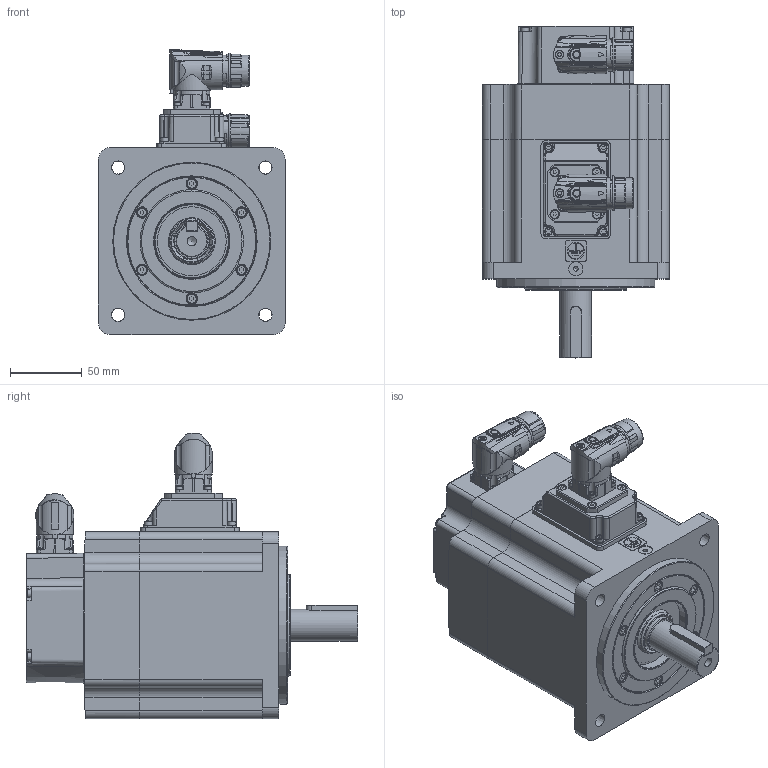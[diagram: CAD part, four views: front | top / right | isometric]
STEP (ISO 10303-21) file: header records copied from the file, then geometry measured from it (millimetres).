
FILE_DESCRIPTION( ( 'Unknown' ), '1' );
FILE_NAME( 'U:/05_Progetto TCE/010-TCE motor drawings/TCE130/Vuoti/TCE130 5A XX 3 A2 1 C2.stp', 'Unknown', ( 'Unknown' ), ( 'Unknown' ), 'PSStep 17.0.49', 'Unknown', ' ' );
FILE_SCHEMA( ( 'AUTOMOTIVE_DESIGN { 1 0 10303 214 1 1 1 1 }' ) );
Length unit declared in the file: millimetre
Products named in the file (13): 003103001510
Bounding box: 130.3 x 231 x 198.5 mm (x, y, z)
Volume: 1070544.9 mm3; surface area: 328604.5 mm2
Topology: 13 solids, 82 shells, 3020 faces, 7573 edges, 4884 vertices
Faces by surface type: plane 1466, cylinder 745, cone 297, bspline 230, torus 163, sphere 81, extrusion 38
Full cylindrical faces by diameter (mm): 0.5 x1, 1 x21, 1.2 x17, 1.4 x4, 2 x4, 2.013 x4, 2.2 x2, 2.459 x24, 2.5 x10, 2.6 x4, 2.8 x4, 3 x29, 3.2 x1, 3.242 x30, 3.5 x8, 4 x15, 4.134 x8, 4.4 x4, 4.5 x8, 4.7 x4, 5 x8, 5.5 x19, 5.8 x1, 5.9 x2, 6.647 x2, 6.8 x1, 7 x10, 8 x13, 8.5 x8, 10 x1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
Entity records: 125274 total; most frequent: CARTESIAN_POINT 38136, DIRECTION 13358, ORIENTED_EDGE 13000, EDGE_CURVE 6500, AXIS2_PLACEMENT_3D 5006, VERTEX_POINT 4606, EDGE_LOOP 4019, FACE_OUTER_BOUND 3492
